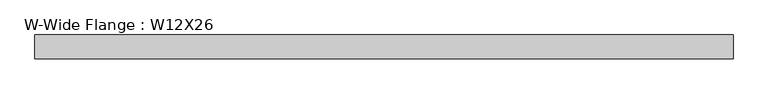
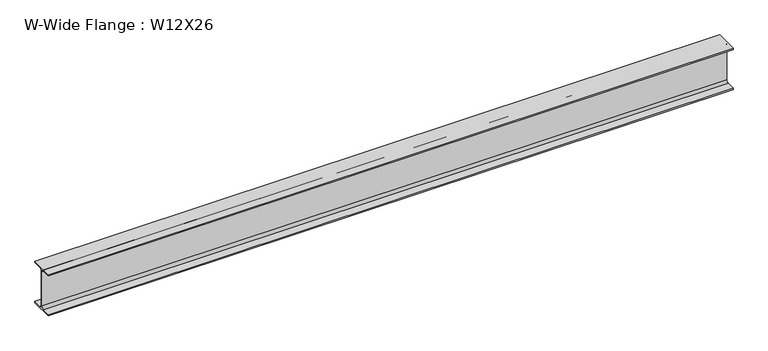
"""IFC4 building model written with IfcOpenShell, lengths in millimetres: beam geometry, W-Wide Flange : W12X26."""

from ifc_helpers import new_model, si_unit, point, frame, frame_2d, origin, place, context, project, spatial, polyline, circle_curve, trimmed, segment, composite_curve, outline, extrude, source, transform, mapped, element, save


def w_wide_flange_w12x26_f9701f0b(model_context):
    return source(origin(), model_context, "Body", "SweptSolid", [
        extrude(outline(composite_curve([segment(polyline([(82.423, -145.288), (82.423, -154.94), (-82.423, -154.94), (-82.423, -145.288), (-20.2565, -145.288)]), True, "CONTINUOUS"), segment(trimmed(circle_curve(frame_2d((-20.2565, -127.9525)), 17.3355), [point((-20.2565, -145.288))], [point((-2.921, -127.9525))], True, "CARTESIAN"), True, "CONTINUOUS"), segment(polyline([(-2.921, -127.9525), (-2.921, 127.9525)]), True, "CONTINUOUS"), segment(trimmed(circle_curve(frame_2d((-20.2565, 127.9525)), 17.3355), [point((-2.921, 127.9525))], [point((-20.2565, 145.288))], True, "CARTESIAN"), True, "CONTINUOUS"), segment(polyline([(-20.2565, 145.288), (-82.423, 145.288), (-82.423, 154.94), (82.423, 154.94), (82.423, 145.288), (20.2565, 145.288)]), True, "CONTINUOUS"), segment(trimmed(circle_curve(frame_2d((20.2565, 127.9525)), 17.3355), [point((20.2565, 145.288))], [point((2.921, 127.9525))], True, "CARTESIAN"), True, "CONTINUOUS"), segment(polyline([(2.921, 127.9525), (2.921, -127.9525)]), True, "CONTINUOUS"), segment(trimmed(circle_curve(frame_2d((20.2565, -127.9525)), 17.3355), [point((2.921, -127.9525))], [point((20.2565, -145.288))], True, "CARTESIAN"), True, "CONTINUOUS"), segment(polyline([(20.2565, -145.288), (82.423, -145.288)]), True, "CONTINUOUS")], self_intersect=False)), frame((-2660.777, 0.0, 0.0), z_axis=(1.0, 0.0, 0.0), x_axis=(0.0, 1.0, 0.0)), (0.0, 0.0, 1.0), 4845.304),
    ])


if __name__ == "__main__":
    model = new_model("IFC4")
    model_context = context("Model", 3, world=origin())
    ifc_project = project(units=[si_unit("LENGTHUNIT", "METRE", prefix="MILLI")], contexts=[model_context])
    site = spatial("IfcSite", under=ifc_project)
    building = spatial("IfcBuilding", under=site)
    placement = place(None, origin())
    w_wide_flange_w12x26_shape = w_wide_flange_w12x26_f9701f0b(model_context)
    element("IfcBeam", 1, ObjectType="W-Wide Flange : W12X26", at=placement, inside=building, context=model_context, shape_type="MappedRepresentation", body=[
        mapped(w_wide_flange_w12x26_shape, transform((0.0, 0.0, 0.0), x_axis=(1.0, 0.0, 0.0), y_axis=(0.0, 1.0, 0.0), z_axis=(0.0, 0.0, 1.0))),
    ])
    save(model, "model.ifc")
